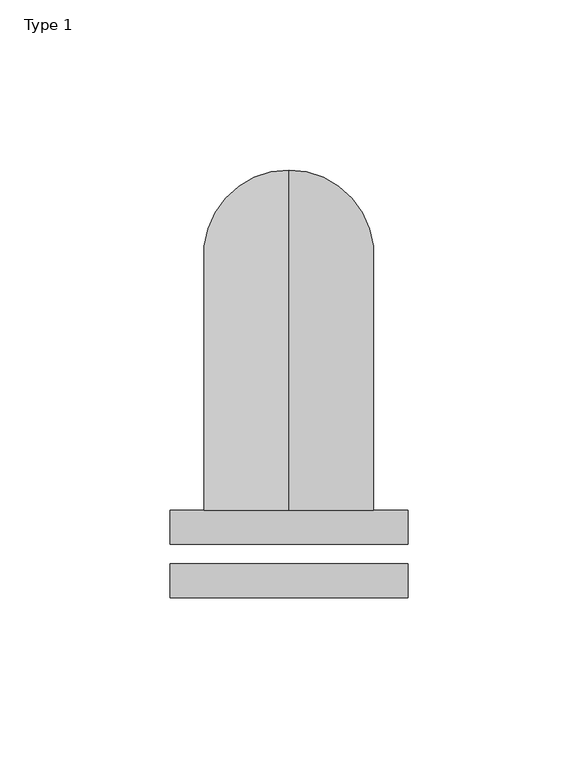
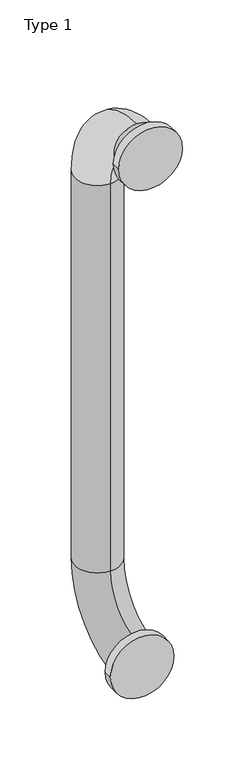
"""IFC4 building model written with IfcOpenShell, lengths in millimetres: proxy geometry, BIMHealth-Grab_Rail_Vertical-LOD2A-v1 : Type 1."""

import ifcopenshell
import ifcopenshell.guid

model = None  # the IFC model being written
_history = None  # IfcOwnerHistory: only IFC2X3 demands one
_inside = {}  # id of a spatial element -> (the spatial element, [elements in it])
_under = {}  # id of a project, library or spatial element -> (it, [spatial elements below it])
_declared = {}  # id of a project -> (the project, [libraries it declares])
_typed = {}  # id of a type object -> (the type object, [elements of that type])
_made_of = {}  # id of a material, layer set ... -> (it, [elements and type objects made of it])


def new_model(schema):
    """Start an empty IFC model of exactly this schema.

    Asked for "IFC4X3", IfcOpenShell would pick the latest addendum, in which some entities
    have other attributes; the version numbers below select the first issue.
    IFC2X3 requires an IfcOwnerHistory on every rooted entity: one is made here for all.
    """
    global model, _history
    if schema == "IFC4X3":
        model = ifcopenshell.file(schema_version=(4, 3, 0, 0))
    else:
        model = ifcopenshell.file(schema=schema)
    _inside.clear()
    _under.clear()
    _declared.clear()
    _typed.clear()
    _made_of.clear()
    _history = None
    if model.schema == "IFC2X3":
        org = make("IfcOrganization", Name="unknown")
        user = make(
            "IfcPersonAndOrganization",
            ThePerson=make("IfcPerson", FamilyName="unknown"),
            TheOrganization=org,
        )
        app = make(
            "IfcApplication",
            ApplicationDeveloper=org,
            Version="unknown",
            ApplicationFullName="unknown",
            ApplicationIdentifier="unknown",
        )
        _history = make(
            "IfcOwnerHistory",
            OwningUser=user,
            OwningApplication=app,
            ChangeAction="ADDED",
            CreationDate=0,
        )
    return model


def make(cls, **values):
    """One entity of the class cls with the attributes given. An attribute that is None is left unset."""
    return model.create_entity(
        cls, **{name: value for name, value in values.items() if value is not None}
    )


def rooted(cls, **values):
    """An entity with a GlobalId (a new one), such as an element, a storey or a relation."""
    return make(cls, GlobalId=ifcopenshell.guid.new(), OwnerHistory=_history, **values)


def si_unit(unit_type, name, prefix=None):
    """IfcSIUnit, for example si_unit("LENGTHUNIT", "METRE", prefix="MILLI")."""
    return make("IfcSIUnit", UnitType=unit_type, Prefix=prefix, Name=name)


def assignment(units):
    """IfcUnitAssignment: the units of a project."""
    return None if units is None else make("IfcUnitAssignment", Units=units)


def point(xyz):
    """IfcCartesianPoint."""
    return None if xyz is None else make("IfcCartesianPoint", Coordinates=xyz)


def direction(xyz):
    """IfcDirection."""
    return None if xyz is None else make("IfcDirection", DirectionRatios=xyz)


def frame(location, z_axis=None, x_axis=None):
    """IfcAxis2Placement3D, a coordinate frame: its origin and axes. An axis left out is left unset."""
    return make(
        "IfcAxis2Placement3D",
        Location=point(location),
        Axis=direction(z_axis),
        RefDirection=direction(x_axis),
    )


def frame_2d(location, x_axis=None):
    """IfcAxis2Placement2D, a coordinate frame in the plane: its origin and x axis."""
    return make(
        "IfcAxis2Placement2D", Location=point(location), RefDirection=direction(x_axis)
    )


def origin():
    """The frame at (0, 0, 0) with its axes left unset."""
    return frame((0.0, 0.0, 0.0))


def place(relative_to, where):
    """IfcLocalPlacement: puts the frame where relative to a parent placement (None: the world)."""
    return make(
        "IfcLocalPlacement", PlacementRelTo=relative_to, RelativePlacement=where
    )


def context(
    kind, dimensions, precision=None, world=None, true_north=None, identifier=None
):
    """IfcGeometricRepresentationContext, for example the 3D "Model" context."""
    return make(
        "IfcGeometricRepresentationContext",
        ContextIdentifier=identifier,
        ContextType=kind,
        CoordinateSpaceDimension=dimensions,
        Precision=precision,
        WorldCoordinateSystem=world,
        TrueNorth=true_north,
    )


def project(units=None, contexts=None):
    """IfcProject with its units and contexts."""
    return rooted(
        "IfcProject",
        Name="project",
        RepresentationContexts=contexts,
        UnitsInContext=assignment(units),
    )


def spatial(cls, under=None, at=None, **own):
    """A site, building, storey or space (cls), placed at a placement, below another one or the project."""
    s = rooted(cls, ObjectPlacement=at, **own)
    if under is not None:
        _under.setdefault(under.id(), (under, []))[1].append(s)
    return s


def circle_curve(where, radius):
    """IfcCircle in the frame where."""
    return make("IfcCircle", Position=where, Radius=radius)


def ellipse_curve(where, semi_axis1, semi_axis2):
    """IfcEllipse in the frame where."""
    return make(
        "IfcEllipse", Position=where, SemiAxis1=semi_axis1, SemiAxis2=semi_axis2
    )


def trimmed(basis, trim1, trim2, sense, master):
    """IfcTrimmedCurve: the piece of a basis curve between two trims."""
    return make(
        "IfcTrimmedCurve",
        BasisCurve=basis,
        Trim1=trim1,
        Trim2=trim2,
        SenseAgreement=sense,
        MasterRepresentation=master,
    )


def segment(curve, same_sense, transition):
    """IfcCompositeCurveSegment."""
    return make(
        "IfcCompositeCurveSegment",
        Transition=transition,
        SameSense=same_sense,
        ParentCurve=curve,
    )


def composite_curve(segments, self_intersect=None):
    """IfcCompositeCurve: segments joined end to end."""
    return make("IfcCompositeCurve", Segments=segments, SelfIntersect=self_intersect)


def outline(outer, holes=None, kind="AREA"):
    """IfcArbitraryClosedProfileDef: a profile drawn as a closed curve; with holes, ...WithVoids."""
    if holes is None:
        return make("IfcArbitraryClosedProfileDef", ProfileType=kind, OuterCurve=outer)
    return make(
        "IfcArbitraryProfileDefWithVoids",
        ProfileType=kind,
        OuterCurve=outer,
        InnerCurves=holes,
    )


def extrude(swept, where, along, depth):
    """IfcExtrudedAreaSolid: the profile swept, set in the frame where, extruded along a direction by depth."""
    return make(
        "IfcExtrudedAreaSolid",
        SweptArea=swept,
        Position=where,
        ExtrudedDirection=direction(along),
        Depth=depth,
    )


def shape(context_of_items, identifier, shape_type, items):
    """IfcShapeRepresentation: the items that make up one representation, for example the "Body"."""
    return make(
        "IfcShapeRepresentation",
        ContextOfItems=context_of_items,
        RepresentationIdentifier=identifier,
        RepresentationType=shape_type,
        Items=items,
    )


def source(mapping_origin, context_of_items, identifier, shape_type, items):
    """IfcRepresentationMap: a shape defined once, which mapped items show again and again."""
    return make(
        "IfcRepresentationMap",
        MappingOrigin=mapping_origin,
        MappedRepresentation=shape(context_of_items, identifier, shape_type, items),
    )


def transform(
    local_origin,
    x_axis=None,
    y_axis=None,
    z_axis=None,
    scale=None,
    scale2=None,
    scale3=None,
    uniform=True,
):
    """IfcCartesianTransformationOperator3D, or its non-uniform kind. x_axis, y_axis, z_axis: its Axis1, 2, 3."""
    if uniform:
        return make(
            "IfcCartesianTransformationOperator3D",
            Axis1=direction(x_axis),
            Axis2=direction(y_axis),
            LocalOrigin=point(local_origin),
            Scale=scale,
            Axis3=direction(z_axis),
        )
    return make(
        "IfcCartesianTransformationOperator3DnonUniform",
        Axis1=direction(x_axis),
        Axis2=direction(y_axis),
        LocalOrigin=point(local_origin),
        Scale=scale,
        Axis3=direction(z_axis),
        Scale2=scale2,
        Scale3=scale3,
    )


def mapped(mapping_source, mapping_target):
    """IfcMappedItem: shows the shape of a source again, moved by a transform."""
    return make(
        "IfcMappedItem", MappingSource=mapping_source, MappingTarget=mapping_target
    )


def made_of(thing, what):
    """Note that an element or type object is made of a material, layer set ...; save() writes the relation."""
    if what is not None:
        _made_of.setdefault(what.id(), (what, []))[1].append(thing)
    return thing


def element(
    cls,
    number,
    at=None,
    inside=None,
    cuts=None,
    type_object=None,
    material=None,
    context=None,
    identifier="Body",
    shape_type=None,
    held_by="IfcProductDefinitionShape",
    body=None,
    shapes=None,
    **own,
):
    """One element of the class cls, such as IfcWall. Its Tag is "e" and its number.

    at: its placement. inside: the storey or other place that contains it. cuts: it is an
    opening in that element (IfcRelVoidsElement). A single representation is given by context,
    identifier, shape_type and body (its items); several are given by shapes. held_by: the class
    of the entity that holds the representations. save() writes the other relations.
    """
    e = rooted(cls, Tag="e%d" % number, ObjectPlacement=at, **own)
    if body is not None:
        shapes = [shape(context, identifier, shape_type, body)]
    if shapes is not None:
        e.Representation = make(held_by, Representations=shapes)
    if inside is not None:
        _inside.setdefault(inside.id(), (inside, []))[1].append(e)
    if cuts is not None:
        rooted(
            "IfcRelVoidsElement", RelatingBuildingElement=cuts, RelatedOpeningElement=e
        )
    if type_object is not None:
        _typed.setdefault(type_object.id(), (type_object, []))[1].append(e)
    return made_of(e, material)


def aggregate(whole, parts):
    """IfcRelAggregates: a whole, such as a stair, and the parts it consists of."""
    return rooted("IfcRelAggregates", RelatingObject=whole, RelatedObjects=parts)


def save(model, path):
    """Write the relations noted so far, then the file.

    IfcRelAggregates (storeys below a building ...), IfcRelContainedInSpatialStructure (elements
    in a storey), IfcRelDefinesByType, IfcRelAssociatesMaterial and IfcRelDeclares: one each for
    every whole, place, type object, material and project.
    """
    for whole, parts in _under.values():
        aggregate(whole, parts)
    for where, things in _inside.values():
        rooted(
            "IfcRelContainedInSpatialStructure",
            RelatedElements=things,
            RelatingStructure=where,
        )
    for kind, things in _typed.values():
        rooted("IfcRelDefinesByType", RelatedObjects=things, RelatingType=kind)
    for what, things in _made_of.values():
        rooted("IfcRelAssociatesMaterial", RelatedObjects=things, RelatingMaterial=what)
    for by, libraries in _declared.values():
        rooted("IfcRelDeclares", RelatingContext=by, RelatedDefinitions=libraries)
    model.write(path)


def plane_surface(at):
    """IfcPlane: the flat surface through the origin of the frame at, square to its z axis."""
    return make("IfcPlane", Position=at)


def cylinder_surface(at, radius):
    """IfcCylindricalSurface: all points at the distance radius from the z axis of the frame at."""
    return make("IfcCylindricalSurface", Position=at, Radius=radius)


def revolved_surface(curve, axis_point, axis_direction):
    """IfcSurfaceOfRevolution: the curve turned about the line through axis_point along axis_direction."""
    return make(
        "IfcSurfaceOfRevolution",
        SweptCurve=make("IfcArbitraryOpenProfileDef", ProfileType="CURVE", Curve=curve),
        AxisPosition=make("IfcAxis1Placement", Location=point(axis_point), Axis=direction(axis_direction)),
    )


def advanced_brep(points, edges, surfaces, faces):
    """IfcAdvancedBrep: a solid bounded by faces that lie on surfaces and meet in shared edges.

    An edge is (start, end): straight between two places in points (the first is 0);
    or (start, end, curve); or (start, end, curve, False) where it runs against its curve.
    A face is (place in surfaces, loops), or (place, loops, False) where it looks against
    its surface's normal. A loop lists edges by number (the first is 1), with a minus sign
    where the edge is run from its end to its start. The first loop is the outer one.
    """
    corners = [point(p) for p in points]
    vertices = [make("IfcVertexPoint", VertexGeometry=c) for c in corners]
    made = []
    for start, end, *more in edges:
        made.append(
            make(
                "IfcEdgeCurve",
                EdgeStart=vertices[start],
                EdgeEnd=vertices[end],
                EdgeGeometry=more[0] if more else make("IfcPolyline", Points=[corners[start], corners[end]]),
                SameSense=more[1] if len(more) > 1 else True,
            )
        )
    hull = []
    for where, loops, *sense in faces:
        bounds = []
        for j, loop in enumerate(loops):
            ring = [make("IfcOrientedEdge", EdgeElement=made[abs(k) - 1], Orientation=k > 0) for k in loop]
            bounds.append(
                make(
                    "IfcFaceOuterBound" if j == 0 else "IfcFaceBound",
                    Bound=make("IfcEdgeLoop", EdgeList=ring),
                    Orientation=True,
                )
            )
        hull.append(make("IfcAdvancedFace", Bounds=bounds, FaceSurface=surfaces[where], SameSense=sense[0] if sense else True))
    return make("IfcAdvancedBrep", Outer=make("IfcClosedShell", CfsFaces=hull))


def type_1_c6378e0a(model_context):
    return source(origin(), model_context, "Body", "SolidModel", [
        advanced_brep(
        [(125.0, 160.0, 1325.0), (125.0, 110.0, 1325.0), (125.0, 110.0, 875.0), (125.0, 160.0, 875.0), (125.0, 60.0, 1375.0), (125.0, 60.0, 1425.0), (125.0, 60.0, 825.0), (125.0, 60.0, 775.0)],
        [
            (0, 1, circle_curve(frame((125.0, 135.0, 1325.0), z_axis=(0.0, 0.0, -1.0), x_axis=(0.0, 1.0, 0.0)), 25.0)),
            (1, 2),
            (2, 3, circle_curve(frame((125.0, 135.0, 875.0), z_axis=(0.0, 0.0, 1.0), x_axis=(0.0, 1.0, 0.0)), 25.0)),
            (3, 0),
            (1, 0, circle_curve(frame((125.0, 135.0, 1325.0), z_axis=(0.0, 0.0, -1.0), x_axis=(0.0, 1.0, 0.0)), 25.0)),
            (3, 2, circle_curve(frame((125.0, 135.0, 875.0), z_axis=(0.0, 0.0, 1.0), x_axis=(0.0, 1.0, 0.0)), 25.0)),
            (4, 5, circle_curve(frame((125.0, 60.0, 1400.0), z_axis=(0.0, -1.0, 0.0), x_axis=(0.0, 0.0, 1.0)), 25.0)),
            (5, 4, circle_curve(frame((125.0, 60.0, 1400.0), z_axis=(0.0, -1.0, 0.0), x_axis=(0.0, 0.0, 1.0)), 25.0)),
            (0, 5, circle_curve(frame((125.0, 60.0, 1325.0), z_axis=(1.0, 0.0, 0.0), x_axis=(0.0, 0.0, 1.0)), 100.0)),
            (4, 1, circle_curve(frame((125.0, 60.0, 1325.0), z_axis=(-1.0, 0.0, 0.0), x_axis=(0.0, 0.0, 1.0)), 50.0)),
            (6, 7, circle_curve(frame((125.0, 60.0, 800.0), z_axis=(0.0, -1.0, 0.0), x_axis=(0.0, 0.0, -1.0)), 25.0)),
            (7, 6, circle_curve(frame((125.0, 60.0, 800.0), z_axis=(0.0, -1.0, 0.0), x_axis=(0.0, 0.0, -1.0)), 25.0)),
            (7, 3, circle_curve(frame((125.0, 60.0, 875.0), z_axis=(1.0, 0.0, 0.0), x_axis=(0.0, 1.0, 0.0)), 100.0)),
            (2, 6, circle_curve(frame((125.0, 60.0, 875.0), z_axis=(-1.0, 0.0, 0.0), x_axis=(0.0, 1.0, 0.0)), 50.0)),
        ],
        [
            cylinder_surface(frame((125.0, 135.0, 1325.0), z_axis=(0.0, 0.0, 1.0), x_axis=(0.0, 1.0, 0.0)), 25.0),
            plane_surface(frame((125.0, 60.0, 1400.0), z_axis=(0.0, -1.0, 0.0), x_axis=(1.0, 0.0, 0.0))),
            revolved_surface(trimmed(ellipse_curve(frame((125.0, 60.0, 1400.0), z_axis=(0.0, -1.0, 0.0), x_axis=(0.0, 0.0, 1.0)), 25.0, 25.0), [point((125.0, 60.0, 1375.0))], [point((125.0, 60.0, 1425.0))], True, "CARTESIAN"), (125.0, 60.0, 1325.0), (-1.0, 0.0, 0.0)),
            revolved_surface(trimmed(ellipse_curve(frame((125.0, 60.0, 1400.0), z_axis=(0.0, -1.0, 0.0), x_axis=(0.0, 0.0, 1.0)), 25.0, 25.0), [point((125.0, 60.0, 1425.0))], [point((125.0, 60.0, 1375.0))], True, "CARTESIAN"), (125.0, 60.0, 1325.0), (-1.0, 0.0, 0.0)),
            plane_surface(frame((125.0, 60.0, 800.0), z_axis=(0.0, -1.0, 0.0), x_axis=(1.0, 0.0, 0.0))),
            revolved_surface(trimmed(ellipse_curve(frame((125.0, 135.0, 875.0), z_axis=(0.0, 0.0, 1.0), x_axis=(0.0, 1.0, 0.0)), 25.0, 25.0), [point((125.0, 110.0, 875.0))], [point((125.0, 160.0, 875.0))], True, "CARTESIAN"), (125.0, 60.0, 875.0), (-1.0, 0.0, 0.0)),
            revolved_surface(trimmed(ellipse_curve(frame((125.0, 135.0, 875.0), z_axis=(0.0, 0.0, 1.0), x_axis=(0.0, 1.0, 0.0)), 25.0, 25.0), [point((125.0, 160.0, 875.0))], [point((125.0, 110.0, 875.0))], True, "CARTESIAN"), (125.0, 60.0, 875.0), (-1.0, 0.0, 0.0)),
        ],
        [
            (0, [[1, 2, 3, 4]]),
            (0, [[5, -4, 6, -2]]),
            (1, [[7, 8]]),
            (2, [[9, -7, 10, -1]]),
            (3, [[-10, -8, -9, -5]]),
            (4, [[11, 12]]),
            (5, [[13, -3, 14, -12]]),
            (6, [[-14, -6, -13, -11]]),
        ],
    ),
        extrude(outline(composite_curve([segment(trimmed(circle_curve(frame_2d((800.0, 125.0)), 35.0), [point((800.0, 160.0))], [point((800.0, 90.0))], False, "CARTESIAN"), True, "CONTINUOUS"), segment(trimmed(circle_curve(frame_2d((800.0, 125.0)), 35.0), [point((800.0, 90.0))], [point((800.0, 160.0))], False, "CARTESIAN"), True, "CONTINUOUS")], self_intersect=False)), frame((0.0, 50.0, 0.0), z_axis=(0.0, 1.0, 0.0), x_axis=(0.0, 0.0, 1.0)), (0.0, 0.0, 1.0), 10.0),
        extrude(outline(composite_curve([segment(trimmed(circle_curve(frame_2d((1400.0, 125.0)), 35.0), [point((1400.0, 160.0))], [point((1400.0, 90.0))], False, "CARTESIAN"), True, "CONTINUOUS"), segment(trimmed(circle_curve(frame_2d((1400.0, 125.0)), 35.0), [point((1400.0, 90.0))], [point((1400.0, 160.0))], False, "CARTESIAN"), True, "CONTINUOUS")], self_intersect=False)), frame((0.0, 34.25, 0.0), z_axis=(0.0, 1.0, 0.0), x_axis=(0.0, 0.0, 1.0)), (0.0, 0.0, 1.0), 10.0),
    ])


if __name__ == "__main__":
    model = new_model("IFC4")
    model_context = context("Model", 3, world=origin())
    ifc_project = project(units=[si_unit("LENGTHUNIT", "METRE", prefix="MILLI")], contexts=[model_context])
    site = spatial("IfcSite", under=ifc_project)
    building = spatial("IfcBuilding", under=site)
    placement = place(None, origin())
    type_1_shape = type_1_c6378e0a(model_context)
    element("IfcBuildingElementProxy", 1, Name="BIMHealth-Grab_Rail_Vertical-LOD2A-v1 : Type 1", ObjectType="BIMHealth-Grab_Rail_Vertical-LOD2A-v1 : Type 1", at=placement, inside=building, context=model_context, shape_type="MappedRepresentation", body=[
        mapped(type_1_shape, transform((0.0, 0.0, 0.0), x_axis=(1.0, 0.0, 0.0), y_axis=(0.0, 1.0, 0.0), z_axis=(0.0, 0.0, 1.0))),
    ])
    save(model, "model.ifc")
